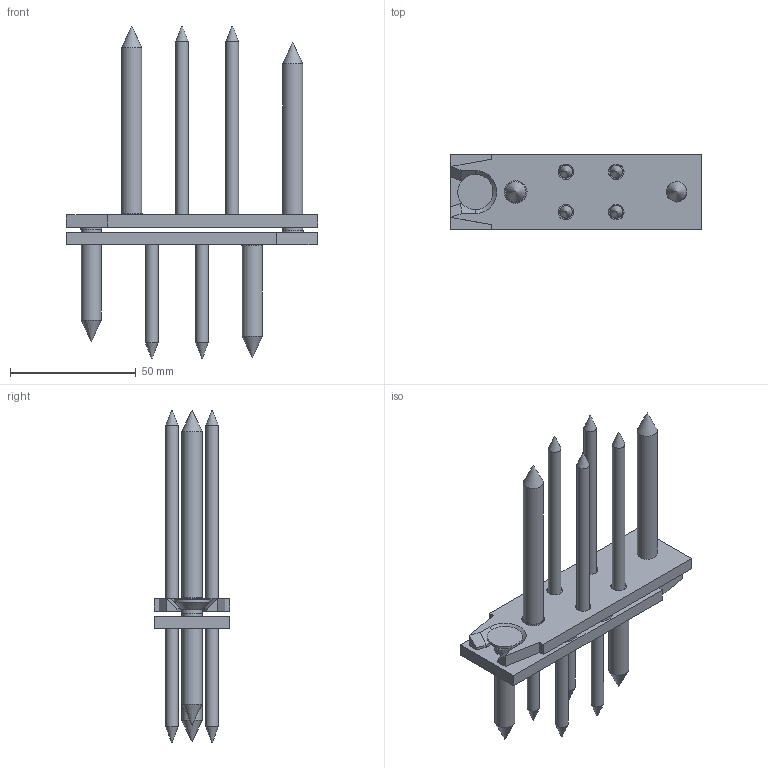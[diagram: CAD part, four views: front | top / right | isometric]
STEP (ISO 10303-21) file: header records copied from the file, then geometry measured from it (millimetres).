
FILE_DESCRIPTION(/* description */ ('Unknown'),/* implementation_level */ '2;1');
FILE_NAME(/* name */ 'RICON Edelstahl_100x30_EA',/* time_stamp */ '2022-02-07T16:22:12+01:00',/* author */ ('Unknown'),/* organization */ ('Unknown'),/* preprocessor_version */ 'ST-DEVELOPER v16.7',/* originating_system */ 'Solid Edge',/* authorisation */ 'Unknown');
FILE_SCHEMA (('AUTOMOTIVE_DESIGN {1 0 10303 214 3 1 1}'));
Length unit declared in the file: millimetre
Products named in the file (6): RICON_30x100_zusammenbau_mit Fase; RICON_30x100_mit Fase; SK_Schraube_5x50; SK_Schraube_8x50; SK_Schraube_5x80; SK_Schraube_8x80
Assembly tree (14 placements, depth 2):
  RICON_30x100_zusammenbau_mit Fase
    RICON_30x100_mit Fase  x2
    SK_Schraube_5x50  x4
    SK_Schraube_8x50  x2
    SK_Schraube_5x80  x4
    SK_Schraube_8x80  x2
Bounding box: 100 x 30 x 132 mm (x, y, z)
Volume: 46530.5 mm3; surface area: 29886 mm2
Topology: 14 solids, 14 shells, 156 faces, 324 edges, 204 vertices
Faces by surface type: plane 70, cylinder 50, cone 36
Full cylindrical faces by diameter (mm): 5 x8, 6 x8, 6.2 x8, 8 x6, 8.3 x4, 9.1 x2, 10 x4, 10.2 x4, 14 x4
Entity records: 1716 total; most frequent: DIRECTION 296, CARTESIAN_POINT 252, ORIENTED_EDGE 192, AXIS2_PLACEMENT_3D 123, FACE_BOUND 109, EDGE_LOOP 107, EDGE_CURVE 96, VERTEX_POINT 79
